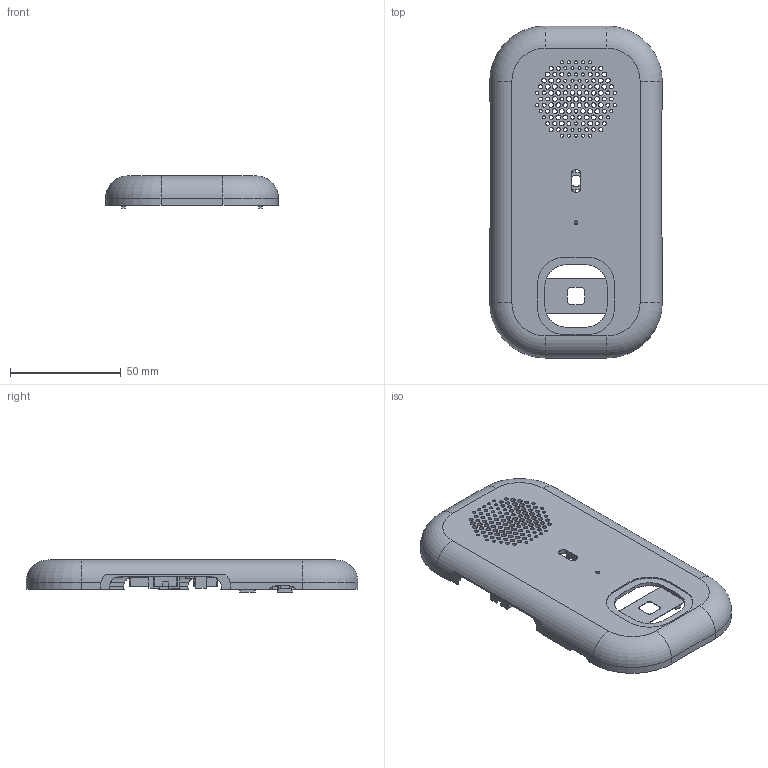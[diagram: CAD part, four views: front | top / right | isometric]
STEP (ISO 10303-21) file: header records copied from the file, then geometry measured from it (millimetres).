
FILE_DESCRIPTION(('Open CASCADE Model'),'2;1');
FILE_NAME('C27_R2_01_Front_Shell_Chalk_Centered_Mic', '2026-09-10T02:58:33',('Author'),('Open CASCADE'), 'Open CASCADE STEP processor 7.9','build123d','Unknown');
FILE_SCHEMA(('AUTOMOTIVE_DESIGN { 1 0 10303 214 1 1 1 1 }'));
Length unit declared in the file: millimetre
Products named in the file (1): C27_R2_01_Front_Shell_Chalk_Centered_Mic
Bounding box: 78 x 150 x 14.51 mm (x, y, z)
Volume: 32818.4 mm3; surface area: 36692.7 mm2
Topology: 1 solids, 1 shells, 932 faces, 2695 edges, 1782 vertices
Faces by surface type: plane 463, cylinder 461, torus 8
Full cylindrical faces by diameter (mm): 1.4 x32, 1.7 x14, 1.8 x49, 2.1 x4, 2.2 x42, 3 x3, 4.2 x4, 5.1 x4, 5.3 x1, 5.5 x1
Entity records: 72100 total; most frequent: CARTESIAN_POINT 18993, DIRECTION 9872, LINE 5489, VECTOR 5489, ORIENTED_EDGE 5390, PCURVE 5390, DEFINITIONAL_REPRESENTATION 5390, EDGE_CURVE 2695
